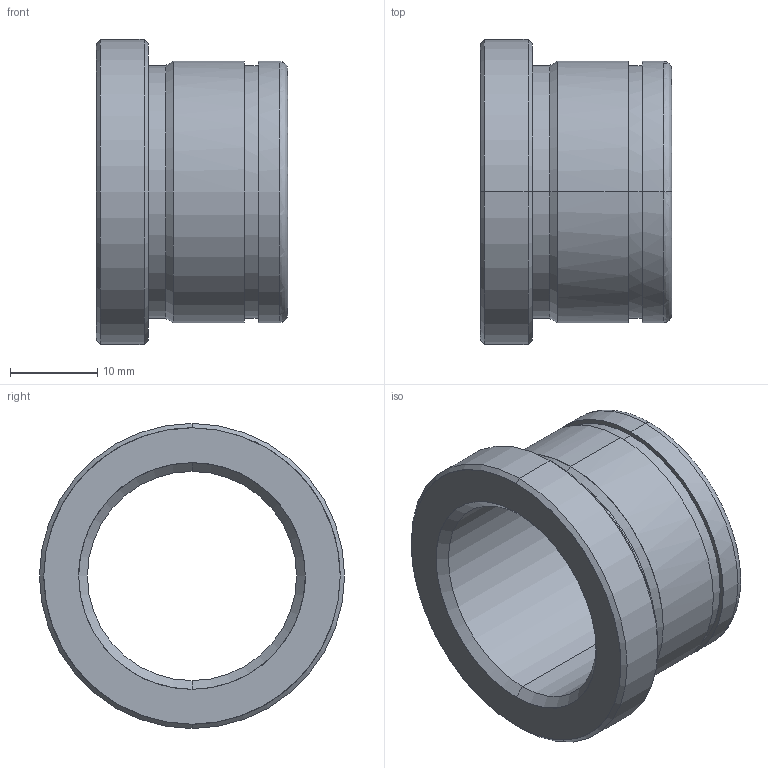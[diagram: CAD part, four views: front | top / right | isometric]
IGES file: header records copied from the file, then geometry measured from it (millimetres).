
Start section: START RECORD GO HERE.
Global section: file name: 553-24X22.igs; native system: DASSAULT SYSTEMES CATIA V5 R20 - www.3ds.com; preprocessor: CATIA Version 5 Release 20 ; author: Utente; organization: NB04-ASUS; date: 20210525.202512; units: millimetre
Bounding box: 22 x 35 x 35 mm (x, y, z)
Surface area: 4788.3 mm2 (no closed solid volume)
Topology: 0 solids, 0 shells, 29 faces, 184 edges, 184 vertices
Faces by surface type: revolution 24, plane 5
